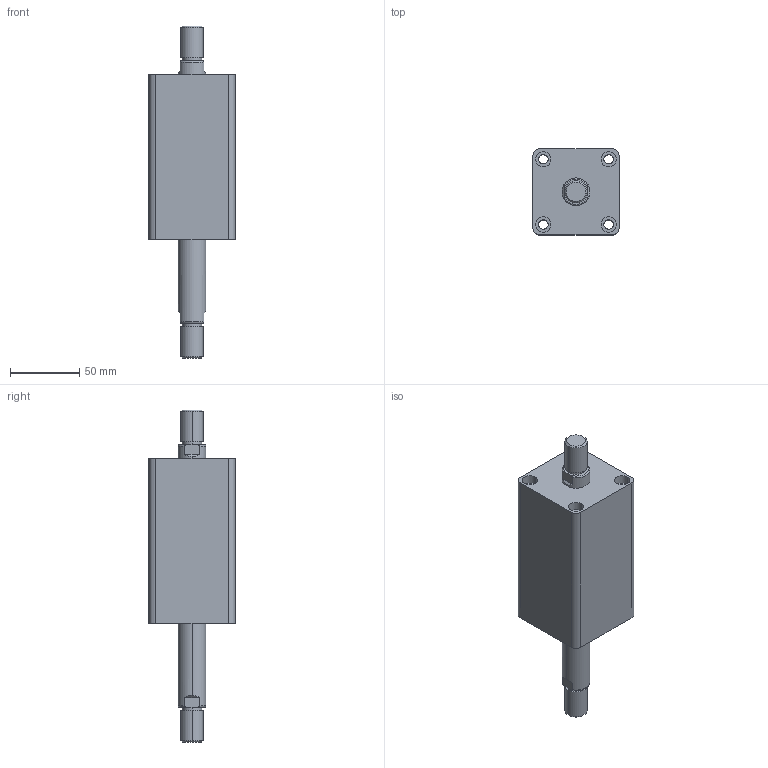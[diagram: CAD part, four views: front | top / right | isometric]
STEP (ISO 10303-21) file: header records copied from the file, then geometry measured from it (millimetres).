
FILE_DESCRIPTION (( 'STEP AP203' ), '1' );
FILE_NAME ('HTB-SW32-50W.STEP', '2019-10-07T08:54:15', ( '微软用户' ), ( '微软中国' ), 'SwSTEP 2.0', 'SolidWorks 2012', '' );
FILE_SCHEMA (( 'CONFIG_CONTROL_DESIGN' ));
Length unit declared in the file: millimetre
Products named in the file (3): HTB-SW32-50W; HTB-SW32-50W活塞杆; HTB-SW32-50掛极
Assembly tree (2 placements, depth 2):
  HTB-SW32-50W
    HTB-SW32-50掛极
    HTB-SW32-50W活塞杆
Bounding box: 62 x 62 x 239 mm (x, y, z)
Volume: 439301.1 mm3; surface area: 74437.6 mm2
Topology: 2 solids, 2 shells, 108 faces, 240 edges, 156 vertices
Faces by surface type: cylinder 52, plane 36, torus 12, cone 8
Entity records: 3449 total; most frequent: CARTESIAN_POINT 629, DIRECTION 586, ORIENTED_EDGE 480, AXIS2_PLACEMENT_3D 249, EDGE_CURVE 240, VERTEX_POINT 156, EDGE_LOOP 138, CIRCLE 136
